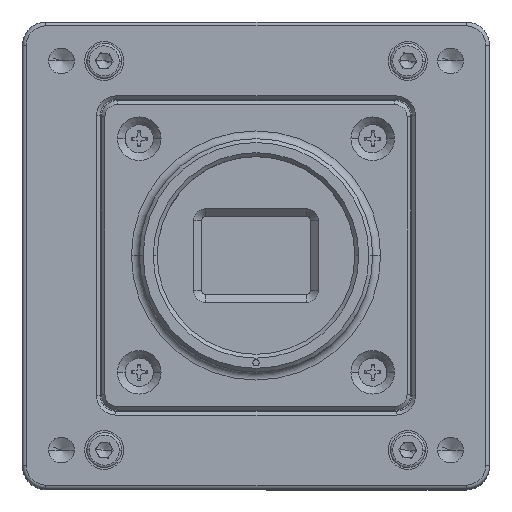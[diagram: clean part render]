
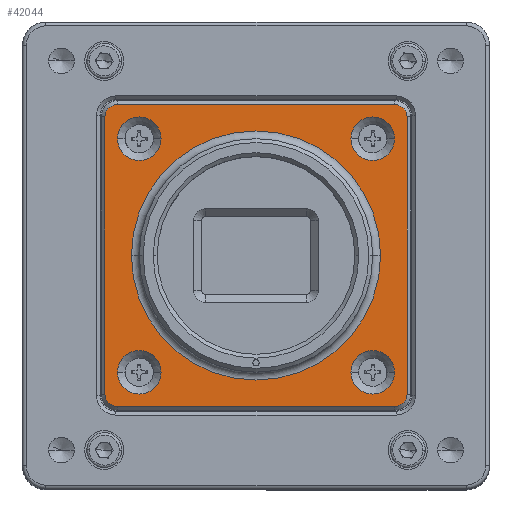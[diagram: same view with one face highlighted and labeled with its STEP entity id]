
A CAD part, top view. The second image highlights one B-rep face of the part: STEP entity #42044.
In plain terms, the highlighted planar face has unit normal (0, 0, 1).
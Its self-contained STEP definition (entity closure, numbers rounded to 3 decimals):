
#14571=DIRECTION('',(-1.,0.,0.));
#14572=VECTOR('',#14571,35.6);
#14573=CARTESIAN_POINT('',(-35.42,21.719,21.581));
#14574=LINE('',#14573,#14572);
#14596=DIRECTION('',(0.,1.,0.));
#14597=VECTOR('',#14596,35.6);
#14598=CARTESIAN_POINT('',(-33.82,-15.481,21.581));
#14599=LINE('',#14598,#14597);
#14613=DIRECTION('',(1.,0.,0.));
#14614=VECTOR('',#14613,35.6);
#14615=CARTESIAN_POINT('',(-71.02,-17.081,21.581));
#14616=LINE('',#14615,#14614);
#14634=DIRECTION('',(0.,-1.,0.));
#14635=VECTOR('',#14634,35.6);
#14636=CARTESIAN_POINT('',(-72.62,20.119,21.581));
#14637=LINE('',#14636,#14635);
#14642=CARTESIAN_POINT('',(-71.02,-15.481,21.581));
#14643=DIRECTION('',(0.,0.,-1.));
#14644=DIRECTION('',(0.,-1.,0.));
#14645=AXIS2_PLACEMENT_3D('',#14642,#14643,#14644);
#14647=CARTESIAN_POINT('',(-71.02,20.119,21.581));
#14648=DIRECTION('',(0.,0.,-1.));
#14649=DIRECTION('',(-1.,0.,0.));
#14650=AXIS2_PLACEMENT_3D('',#14647,#14648,#14649);
#14652=CARTESIAN_POINT('',(-35.42,20.119,21.581));
#14653=DIRECTION('',(0.,0.,-1.));
#14654=DIRECTION('',(0.,1.,0.));
#14655=AXIS2_PLACEMENT_3D('',#14652,#14653,#14654);
#14657=CARTESIAN_POINT('',(-35.42,-15.481,21.581));
#14658=DIRECTION('',(0.,0.,-1.));
#14659=DIRECTION('',(1.,0.,0.));
#14660=AXIS2_PLACEMENT_3D('',#14657,#14658,#14659);
#14662=CARTESIAN_POINT('',(-68.22,17.319,21.581));
#14663=DIRECTION('',(0.,0.,1.));
#14664=DIRECTION('',(1.,0.,0.));
#14665=AXIS2_PLACEMENT_3D('',#14662,#14663,#14664);
#14667=CARTESIAN_POINT('',(-68.22,17.319,21.581));
#14668=DIRECTION('',(0.,0.,1.));
#14669=DIRECTION('',(-1.,0.,0.));
#14670=AXIS2_PLACEMENT_3D('',#14667,#14668,#14669);
#14672=CARTESIAN_POINT('',(-38.22,17.319,21.581));
#14673=DIRECTION('',(0.,0.,1.));
#14674=DIRECTION('',(1.,0.,0.));
#14675=AXIS2_PLACEMENT_3D('',#14672,#14673,#14674);
#14677=CARTESIAN_POINT('',(-38.22,17.319,21.581));
#14678=DIRECTION('',(0.,0.,1.));
#14679=DIRECTION('',(-1.,0.,0.));
#14680=AXIS2_PLACEMENT_3D('',#14677,#14678,#14679);
#14682=CARTESIAN_POINT('',(-38.22,-12.681,21.581));
#14683=DIRECTION('',(0.,0.,1.));
#14684=DIRECTION('',(1.,0.,0.));
#14685=AXIS2_PLACEMENT_3D('',#14682,#14683,#14684);
#14687=CARTESIAN_POINT('',(-38.22,-12.681,21.581));
#14688=DIRECTION('',(0.,0.,1.));
#14689=DIRECTION('',(-1.,0.,0.));
#14690=AXIS2_PLACEMENT_3D('',#14687,#14688,#14689);
#14692=CARTESIAN_POINT('',(-68.22,-12.681,21.581));
#14693=DIRECTION('',(0.,0.,1.));
#14694=DIRECTION('',(1.,0.,0.));
#14695=AXIS2_PLACEMENT_3D('',#14692,#14693,#14694);
#14697=CARTESIAN_POINT('',(-68.22,-12.681,21.581));
#14698=DIRECTION('',(0.,0.,1.));
#14699=DIRECTION('',(-1.,0.,0.));
#14700=AXIS2_PLACEMENT_3D('',#14697,#14698,#14699);
#14702=CARTESIAN_POINT('',(-53.22,2.319,21.581));
#14703=DIRECTION('',(0.,0.,1.));
#14704=DIRECTION('',(-1.,0.,0.));
#14705=AXIS2_PLACEMENT_3D('',#14702,#14703,#14704);
#14707=CARTESIAN_POINT('',(-53.22,2.319,21.581));
#14708=DIRECTION('',(0.,0.,1.));
#14709=DIRECTION('',(1.,0.,0.));
#14710=AXIS2_PLACEMENT_3D('',#14707,#14708,#14709);
#21822=CARTESIAN_POINT('',(-71.02,-17.081,21.581));
#21824=VERTEX_POINT('',#21822);
#21826=CARTESIAN_POINT('',(-35.42,-17.081,21.581));
#21827=VERTEX_POINT('',#21826);
#21831=CARTESIAN_POINT('',(-72.62,-15.481,21.581));
#21833=VERTEX_POINT('',#21831);
#21834=CARTESIAN_POINT('',(-72.62,20.119,21.581));
#21836=VERTEX_POINT('',#21834);
#21839=CARTESIAN_POINT('',(-71.02,21.719,21.581));
#21841=VERTEX_POINT('',#21839);
#21842=CARTESIAN_POINT('',(-35.42,21.719,21.581));
#21844=VERTEX_POINT('',#21842);
#21848=CARTESIAN_POINT('',(-33.82,20.119,21.581));
#21849=VERTEX_POINT('',#21848);
#21928=CARTESIAN_POINT('',(-71.02,17.319,21.581));
#21929=CARTESIAN_POINT('',(-65.42,17.319,21.581));
#21930=VERTEX_POINT('',#21928);
#21931=VERTEX_POINT('',#21929);
#21932=CARTESIAN_POINT('',(-33.82,-15.481,21.581));
#21933=VERTEX_POINT('',#21932);
#21934=CARTESIAN_POINT('',(-35.42,17.319,21.581));
#21935=CARTESIAN_POINT('',(-41.02,17.319,21.581));
#21936=VERTEX_POINT('',#21934);
#21937=VERTEX_POINT('',#21935);
#21938=CARTESIAN_POINT('',(-35.42,-12.681,21.581));
#21939=CARTESIAN_POINT('',(-41.02,-12.681,21.581));
#21940=VERTEX_POINT('',#21938);
#21941=VERTEX_POINT('',#21939);
#21942=CARTESIAN_POINT('',(-65.42,-12.681,21.581));
#21943=CARTESIAN_POINT('',(-71.02,-12.681,21.581));
#21944=VERTEX_POINT('',#21942);
#21945=VERTEX_POINT('',#21943);
#21946=CARTESIAN_POINT('',(-69.22,2.319,21.581));
#21947=CARTESIAN_POINT('',(-37.22,2.319,21.581));
#21948=VERTEX_POINT('',#21946);
#21949=VERTEX_POINT('',#21947);
#41999=CARTESIAN_POINT('',(-53.22,2.319,21.581));
#42000=DIRECTION('',(0.,0.,1.));
#42001=DIRECTION('',(1.,0.,0.));
#42002=AXIS2_PLACEMENT_3D('',#41999,#42000,#42001);
#42003=PLANE('',#42002);
#42004=ORIENTED_EDGE('',*,*,#41979,.T.);
#42005=ORIENTED_EDGE('',*,*,#41992,.F.);
#42006=ORIENTED_EDGE('',*,*,#41894,.T.);
#42007=ORIENTED_EDGE('',*,*,#41909,.F.);
#42008=ORIENTED_EDGE('',*,*,#41925,.T.);
#42009=ORIENTED_EDGE('',*,*,#41939,.F.);
#42010=ORIENTED_EDGE('',*,*,#41953,.T.);
#42011=ORIENTED_EDGE('',*,*,#41965,.F.);
#42012=EDGE_LOOP('',(#42004,#42005,#42006,#42007,#42008,#42009,#42010,#42011));
#42013=FACE_OUTER_BOUND('',#42012,.F.);
#42015=ORIENTED_EDGE('',*,*,#42014,.T.);
#42017=ORIENTED_EDGE('',*,*,#42016,.T.);
#42018=EDGE_LOOP('',(#42015,#42017));
#42019=FACE_BOUND('',#42018,.F.);
#42021=ORIENTED_EDGE('',*,*,#42020,.T.);
#42023=ORIENTED_EDGE('',*,*,#42022,.T.);
#42024=EDGE_LOOP('',(#42021,#42023));
#42025=FACE_BOUND('',#42024,.F.);
#42027=ORIENTED_EDGE('',*,*,#42026,.T.);
#42029=ORIENTED_EDGE('',*,*,#42028,.T.);
#42030=EDGE_LOOP('',(#42027,#42029));
#42031=FACE_BOUND('',#42030,.F.);
#42033=ORIENTED_EDGE('',*,*,#42032,.T.);
#42035=ORIENTED_EDGE('',*,*,#42034,.T.);
#42036=EDGE_LOOP('',(#42033,#42035));
#42037=FACE_BOUND('',#42036,.F.);
#42039=ORIENTED_EDGE('',*,*,#42038,.T.);
#42041=ORIENTED_EDGE('',*,*,#42040,.T.);
#42042=EDGE_LOOP('',(#42039,#42041));
#42043=FACE_BOUND('',#42042,.F.);
#42044=ADVANCED_FACE('',(#42013,#42019,#42025,#42031,#42037,#42043),#42003,.T.);
#14646=CIRCLE('',#14645,1.6);
#14651=CIRCLE('',#14650,1.6);
#14656=CIRCLE('',#14655,1.6);
#14661=CIRCLE('',#14660,1.6);
#14666=CIRCLE('',#14665,2.8);
#14671=CIRCLE('',#14670,2.8);
#14676=CIRCLE('',#14675,2.8);
#14681=CIRCLE('',#14680,2.8);
#14686=CIRCLE('',#14685,2.8);
#14691=CIRCLE('',#14690,2.8);
#14696=CIRCLE('',#14695,2.8);
#14701=CIRCLE('',#14700,2.8);
#14706=CIRCLE('',#14705,16.);
#14711=CIRCLE('',#14710,16.);
#41894=EDGE_CURVE('',#21836,#21841,#14651,.T.);
#41909=EDGE_CURVE('',#21844,#21841,#14574,.T.);
#41925=EDGE_CURVE('',#21844,#21849,#14656,.T.);
#41939=EDGE_CURVE('',#21933,#21849,#14599,.T.);
#41953=EDGE_CURVE('',#21933,#21827,#14661,.T.);
#41965=EDGE_CURVE('',#21824,#21827,#14616,.T.);
#41979=EDGE_CURVE('',#21824,#21833,#14646,.T.);
#41992=EDGE_CURVE('',#21836,#21833,#14637,.T.);
#42014=EDGE_CURVE('',#21931,#21930,#14666,.T.);
#42016=EDGE_CURVE('',#21930,#21931,#14671,.T.);
#42020=EDGE_CURVE('',#21936,#21937,#14676,.T.);
#42022=EDGE_CURVE('',#21937,#21936,#14681,.T.);
#42026=EDGE_CURVE('',#21940,#21941,#14686,.T.);
#42028=EDGE_CURVE('',#21941,#21940,#14691,.T.);
#42032=EDGE_CURVE('',#21944,#21945,#14696,.T.);
#42034=EDGE_CURVE('',#21945,#21944,#14701,.T.);
#42038=EDGE_CURVE('',#21948,#21949,#14706,.T.);
#42040=EDGE_CURVE('',#21949,#21948,#14711,.T.);
